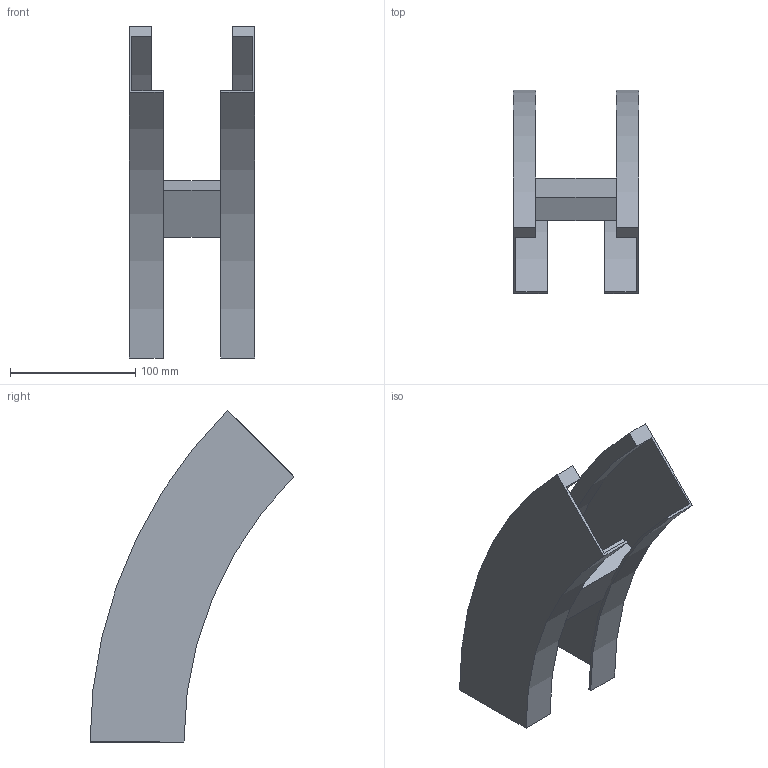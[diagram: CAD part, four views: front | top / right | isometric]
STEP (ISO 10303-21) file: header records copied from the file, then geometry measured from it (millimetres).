
FILE_DESCRIPTION (( 'STEP AP214' ), '1' );
FILE_NAME ('B2_34B3C100.step', '2025-02-21T14:55:19', ( '' ), ( '' ), 'SwSTEP 2.0', 'SolidWorks 2023', '' );
FILE_SCHEMA (( 'AUTOMOTIVE_DESIGN' ));
Length unit declared in the file: millimetre
Products named in the file (3): TRAVERSINO_100; B2_LONGH.DISCESA_45°_H75_R300; B2_34B3C100
Assembly tree (3 placements, depth 2):
  B2_34B3C100
    B2_LONGH.DISCESA_45°_H75_R300  x2
    TRAVERSINO_100
Bounding box: 100 x 162.87 x 265.17 mm (x, y, z)
Volume: 292209.8 mm3; surface area: 138634.6 mm2
Topology: 3 solids, 3 shells, 26 faces, 60 edges, 40 vertices
Faces by surface type: plane 18, cylinder 8
Entity records: 544 total; most frequent: DIRECTION 88, CARTESIAN_POINT 82, ORIENTED_EDGE 72, EDGE_CURVE 36, AXIS2_PLACEMENT_3D 30, LINE 28, VECTOR 28, VERTEX_POINT 24
